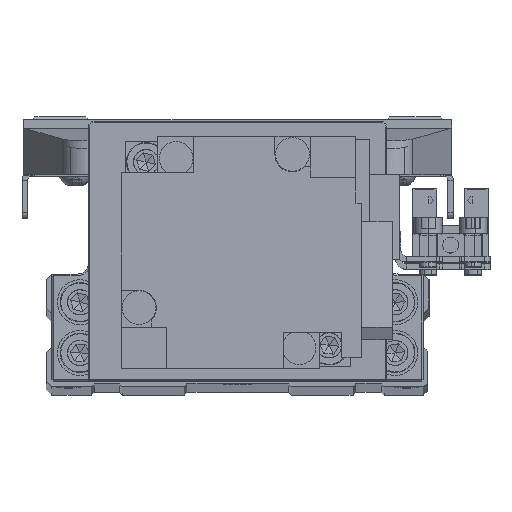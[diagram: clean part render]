
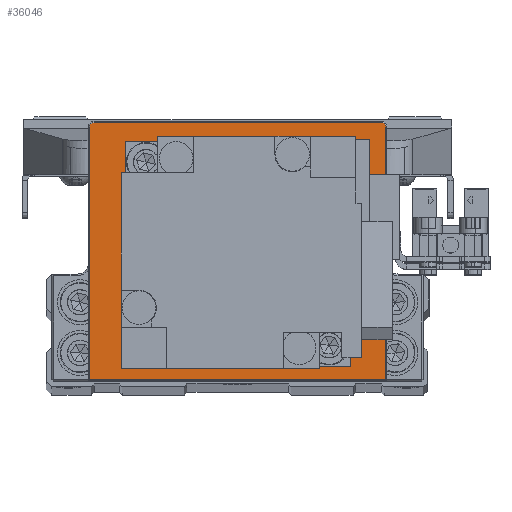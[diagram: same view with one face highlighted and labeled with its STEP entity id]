
A CAD part, top view. The second image highlights one B-rep face of the part: STEP entity #36046.
In plain terms, the highlighted planar face has unit normal (0, 0, 1) as drawn and (0, -1, 0) by its records, which use the part's own axes.
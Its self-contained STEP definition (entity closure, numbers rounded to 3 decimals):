
#1121 = ORIENTED_EDGE ( 'NONE', *, *, #30783, .T. ) ;
#1137 = VERTEX_POINT ( 'NONE', #31052 ) ;
#2323 = CARTESIAN_POINT ( 'NONE',  ( -26.3, -4., 22. ) ) ;
#2730 = CARTESIAN_POINT ( 'NONE',  ( 26.5, -4., -22.8 ) ) ;
#2800 = VECTOR ( 'NONE', #3967, 1000. ) ;
#3110 = DIRECTION ( 'NONE',  ( 0., 0., -1. ) ) ;
#3967 = DIRECTION ( 'NONE',  ( 0., 0., 1. ) ) ;
#5327 = VECTOR ( 'NONE', #15341, 1000. ) ;
#6121 = CARTESIAN_POINT ( 'NONE',  ( 25.5, -4., 22. ) ) ;
#7053 = VECTOR ( 'NONE', #20169, 1000. ) ;
#7559 = CARTESIAN_POINT ( 'NONE',  ( -25.5, -4., 22.8 ) ) ;
#7582 = AXIS2_PLACEMENT_3D ( 'NONE', #6121, #18727, #31336 ) ;
#7786 = CARTESIAN_POINT ( 'NONE',  ( 26.3, -4., 22. ) ) ;
#7992 = DIRECTION ( 'NONE',  ( 0., -1., 0. ) ) ;
#8648 = CARTESIAN_POINT ( 'NONE',  ( -25.5, -4., 22.8 ) ) ;
#10215 = CARTESIAN_POINT ( 'NONE',  ( 25.5, -4., 22.8 ) ) ;
#10656 = ORIENTED_EDGE ( 'NONE', *, *, #19460, .T. ) ;
#10752 = ORIENTED_EDGE ( 'NONE', *, *, #37263, .T. ) ;
#11108 = FACE_OUTER_BOUND ( 'NONE', #31296, .T. ) ;
#11785 = DIRECTION ( 'NONE',  ( 0., 0., -1. ) ) ;
#15341 = DIRECTION ( 'NONE',  ( 1., 0., 0. ) ) ;
#18727 = DIRECTION ( 'NONE',  ( 0., -1., 0. ) ) ;
#18825 = CARTESIAN_POINT ( 'NONE',  ( -25.5, -4., 22. ) ) ;
#19244 = VERTEX_POINT ( 'NONE', #10215 ) ;
#19419 = VERTEX_POINT ( 'NONE', #2323 ) ;
#19460 = EDGE_CURVE ( 'NONE', #1137, #29564, #31061, .T. ) ;
#19682 = LINE ( 'NONE', #32290, #2800 ) ;
#19780 = VERTEX_POINT ( 'NONE', #8648 ) ;
#20110 = VERTEX_POINT ( 'NONE', #7786 ) ;
#20169 = DIRECTION ( 'NONE',  ( -1., 0., 0. ) ) ;
#20601 = DIRECTION ( 'NONE',  ( 0., 0., -1. ) ) ;
#22277 = AXIS2_PLACEMENT_3D ( 'NONE', #18825, #31437, #3110 ) ;
#22695 = EDGE_CURVE ( 'NONE', #29564, #20110, #19682, .T. ) ;
#22894 = ORIENTED_EDGE ( 'NONE', *, *, #27724, .T. ) ;
#23716 = PLANE ( 'NONE',  #28502 ) ;
#25388 = CIRCLE ( 'NONE', #7582, 0.8 ) ;
#27467 = LINE ( 'NONE', #40107, #38529 ) ;
#27724 = EDGE_CURVE ( 'NONE', #20110, #19244, #25388, .T. ) ;
#28349 = ORIENTED_EDGE ( 'NONE', *, *, #22695, .T. ) ;
#28502 = AXIS2_PLACEMENT_3D ( 'NONE', #36317, #7992, #20601 ) ;
#29564 = VERTEX_POINT ( 'NONE', #30208 ) ;
#29750 = EDGE_CURVE ( 'NONE', #19780, #19419, #40103, .T. ) ;
#30208 = CARTESIAN_POINT ( 'NONE',  ( 26.3, -4., -22.8 ) ) ;
#30783 = EDGE_CURVE ( 'NONE', #19244, #19780, #35878, .T. ) ;
#31052 = CARTESIAN_POINT ( 'NONE',  ( -26.3, -4., -22.8 ) ) ;
#31061 = LINE ( 'NONE', #2730, #5327 ) ;
#31296 = EDGE_LOOP ( 'NONE', ( #10656, #28349, #22894, #1121, #38108, #10752 ) ) ;
#31336 = DIRECTION ( 'NONE',  ( 0., 0., -1. ) ) ;
#31437 = DIRECTION ( 'NONE',  ( 0., -1., 0. ) ) ;
#32290 = CARTESIAN_POINT ( 'NONE',  ( 26.3, -4., 22. ) ) ;
#35878 = LINE ( 'NONE', #7559, #7053 ) ;
#36046 = ADVANCED_FACE ( 'NONE', ( #11108 ), #23716, .T. ) ;
#36317 = CARTESIAN_POINT ( 'NONE',  ( 0., -4., 0. ) ) ;
#37263 = EDGE_CURVE ( 'NONE', #19419, #1137, #27467, .T. ) ;
#38108 = ORIENTED_EDGE ( 'NONE', *, *, #29750, .T. ) ;
#38529 = VECTOR ( 'NONE', #11785, 1000. ) ;
#40103 = CIRCLE ( 'NONE', #22277, 0.8 ) ;
#40107 = CARTESIAN_POINT ( 'NONE',  ( -26.3, -4., -23. ) ) ;
